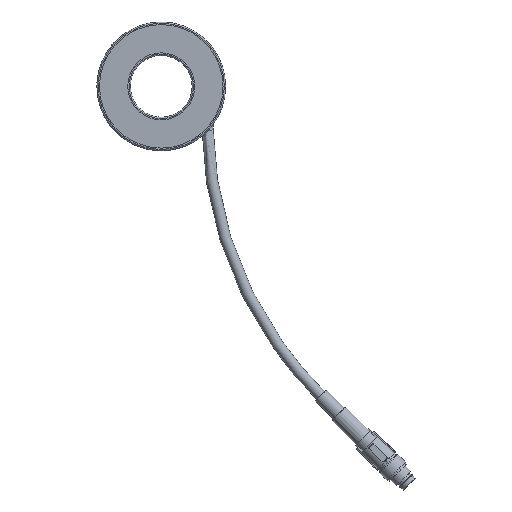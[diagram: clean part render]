
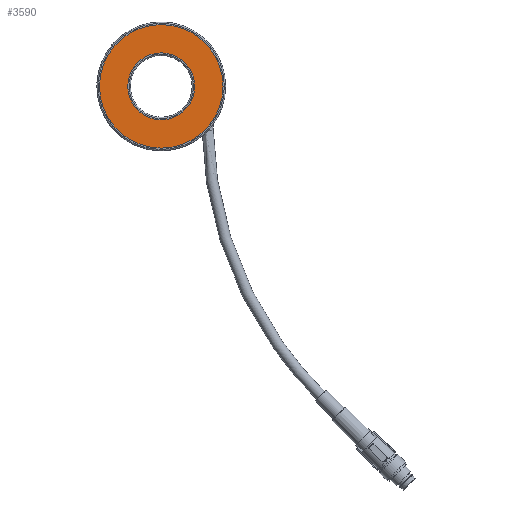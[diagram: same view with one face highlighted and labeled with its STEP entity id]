
A CAD part, top view. The second image highlights one B-rep face of the part: STEP entity #3590.
In plain terms, the highlighted planar face has unit normal (0, 0, 1).
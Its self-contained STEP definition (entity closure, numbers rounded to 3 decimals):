
#343=PLANE('',#3774);
#425=ORIENTED_EDGE('',*,*,#1077,.T.);
#426=ORIENTED_EDGE('',*,*,#1079,.F.);
#1077=EDGE_CURVE('',#1405,#1405,#1638,.T.);
#1079=EDGE_CURVE('',#1407,#1407,#1640,.T.);
#1405=VERTEX_POINT('',#4864);
#1407=VERTEX_POINT('',#4869);
#1638=CIRCLE('',#3769,13.);
#1640=CIRCLE('',#3772,24.);
#1790=EDGE_LOOP('',(#425));
#1791=EDGE_LOOP('',(#426));
#2045=FACE_BOUND('',#1790,.T.);
#2046=FACE_BOUND('',#1791,.T.);
#3590=ADVANCED_FACE('',(#2045,#2046),#343,.F.);
#3769=AXIS2_PLACEMENT_3D('',#4863,#4096,#4097);
#3772=AXIS2_PLACEMENT_3D('',#4868,#4102,#4103);
#3774=AXIS2_PLACEMENT_3D('',#4872,#4106,#4107);
#4096=DIRECTION('',(0.,0.,-1.));
#4097=DIRECTION('',(1.,0.,0.));
#4102=DIRECTION('',(0.,0.,-1.));
#4103=DIRECTION('',(1.,0.,0.));
#4106=DIRECTION('',(0.,0.,-1.));
#4107=DIRECTION('',(-1.,0.,0.));
#4863=CARTESIAN_POINT('',(0.,0.,12.025));
#4864=CARTESIAN_POINT('',(13.,0.,12.025));
#4868=CARTESIAN_POINT('',(0.,0.,12.025));
#4869=CARTESIAN_POINT('',(24.,0.,12.025));
#4872=CARTESIAN_POINT('',(0.,0.,12.025));
